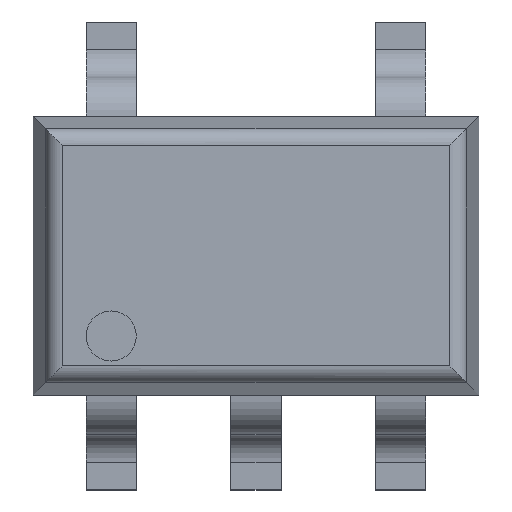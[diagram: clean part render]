
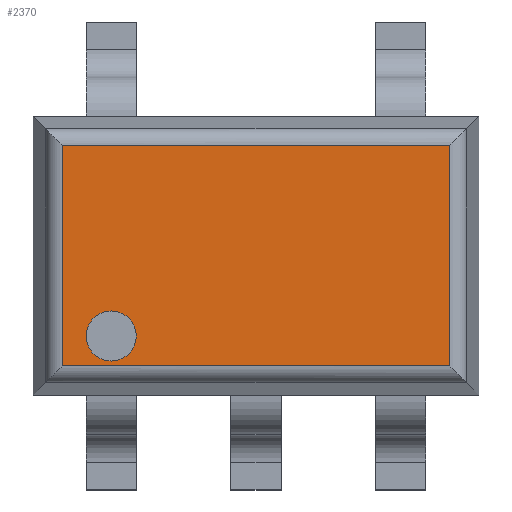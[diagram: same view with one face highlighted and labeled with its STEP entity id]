
A CAD part, top view. The second image highlights one B-rep face of the part: STEP entity #2370.
In plain terms, the highlighted planar face has unit normal (0, 0, 1).
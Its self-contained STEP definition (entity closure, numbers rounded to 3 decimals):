
#2311 = CARTESIAN_POINT ( 'NONE',  ( -0.65, -0.473, 1.1 ) ) ;
#2312 = VERTEX_POINT ( 'NONE', #2311 ) ;
#2313 = CARTESIAN_POINT ( 'NONE',  ( -0.65, -0.248, 1.1 ) ) ;
#2314 = VERTEX_POINT ( 'NONE', #2313 ) ;
#2315 = CARTESIAN_POINT ( 'NONE',  ( -0.65, -0.361, 1.1 ) ) ;
#2316 = DIRECTION ( 'NONE',  ( 0., 0., 1. ) ) ;
#2317 = DIRECTION ( 'NONE',  ( 0., -1., 0. ) ) ;
#2318 = AXIS2_PLACEMENT_3D ( 'NONE', #2315, #2316, #2317 ) ;
#2319 = CIRCLE ( 'NONE', #2318, 0.113) ;
#2320 = EDGE_CURVE ( 'NONE', #2312, #2314, #2319, .T. ) ;
#2321 = ORIENTED_EDGE ( 'NONE', *, *, #2320, .F. ) ;
#2322 = CARTESIAN_POINT ( 'NONE',  ( -0.65, -0.361, 1.1 ) ) ;
#2323 = DIRECTION ( 'NONE',  ( 0., 0., 1. ) ) ;
#2324 = DIRECTION ( 'NONE',  ( 0., -1., 0. ) ) ;
#2325 = AXIS2_PLACEMENT_3D ( 'NONE', #2322, #2323, #2324 ) ;
#2326 = CIRCLE ( 'NONE', #2325, 0.113) ;
#2327 = EDGE_CURVE ( 'NONE', #2314, #2312, #2326, .T. ) ;
#2328 = ORIENTED_EDGE ( 'NONE', *, *, #2327, .F. ) ;
#2329 = EDGE_LOOP ( 'NONE', ( #2321, #2328 ) ) ;
#2330 = FACE_BOUND ( 'NONE', #2329, .T. ) ;
#2331 = CARTESIAN_POINT ( 'NONE',  ( 0.869, -0.494, 1.1 ) ) ;
#2332 = VERTEX_POINT ( 'NONE', #2331 ) ;
#2333 = CARTESIAN_POINT ( 'NONE',  ( 0.869, 0.494, 1.1 ) ) ;
#2334 = VERTEX_POINT ( 'NONE', #2333 ) ;
#2335 = CARTESIAN_POINT ( 'NONE',  ( 0.869, 0.558, 1.1 ) ) ;
#2336 = DIRECTION ( 'NONE',  ( 0., 1., 0. ) ) ;
#2337 = VECTOR ( 'NONE', #2336, 1000. ) ;
#2338 = LINE ( 'NONE', #2335, #2337 ) ;
#2339 = EDGE_CURVE ( 'NONE', #2332, #2334, #2338, .T. ) ;
#2340 = ORIENTED_EDGE ( 'NONE', *, *, #2339, .T. ) ;
#2341 = CARTESIAN_POINT ( 'NONE',  ( -0.869, 0.494, 1.1 ) ) ;
#2342 = VERTEX_POINT ( 'NONE', #2341 ) ;
#2343 = CARTESIAN_POINT ( 'NONE',  ( -0.933, 0.494, 1.1 ) ) ;
#2344 = DIRECTION ( 'NONE',  ( -1., 0., 0. ) ) ;
#2345 = VECTOR ( 'NONE', #2344, 1000. ) ;
#2346 = LINE ( 'NONE', #2343, #2345 ) ;
#2347 = EDGE_CURVE ( 'NONE', #2334, #2342, #2346, .T. ) ;
#2348 = ORIENTED_EDGE ( 'NONE', *, *, #2347, .T. ) ;
#2349 = CARTESIAN_POINT ( 'NONE',  ( -0.869, -0.494, 1.1 ) ) ;
#2350 = VERTEX_POINT ( 'NONE', #2349 ) ;
#2351 = CARTESIAN_POINT ( 'NONE',  ( -0.869, -0.558, 1.1 ) ) ;
#2352 = DIRECTION ( 'NONE',  ( 0., -1., 0. ) ) ;
#2353 = VECTOR ( 'NONE', #2352, 1000. ) ;
#2354 = LINE ( 'NONE', #2351, #2353 ) ;
#2355 = EDGE_CURVE ( 'NONE', #2342, #2350, #2354, .T. ) ;
#2356 = ORIENTED_EDGE ( 'NONE', *, *, #2355, .T. ) ;
#2357 = CARTESIAN_POINT ( 'NONE',  ( 0.933, -0.494, 1.1 ) ) ;
#2358 = DIRECTION ( 'NONE',  ( 1., 0., 0. ) ) ;
#2359 = VECTOR ( 'NONE', #2358, 1000. ) ;
#2360 = LINE ( 'NONE', #2357, #2359 ) ;
#2361 = EDGE_CURVE ( 'NONE', #2350, #2332, #2360, .T. ) ;
#2362 = ORIENTED_EDGE ( 'NONE', *, *, #2361, .T. ) ;
#2363 = EDGE_LOOP ( 'NONE', ( #2340, #2348, #2356, #2362 ) ) ;
#2364 = FACE_OUTER_BOUND ( 'NONE', #2363, .T. ) ;
#2365 = CARTESIAN_POINT ( 'NONE',  ( -0.1, -0.018, 1.1 ) ) ;
#2366 = DIRECTION ( 'NONE',  ( 0., 0., -1. ) ) ;
#2367 = DIRECTION ( 'NONE',  ( 0., 1., 0. ) ) ;
#2368 = AXIS2_PLACEMENT_3D ( 'NONE', #2365, #2366, #2367 ) ;
#2369 = PLANE ( 'NONE', #2368 ) ;
#2370 = ADVANCED_FACE ( 'NONE', ( #2330, #2364 ), #2369, .F. ) ;
